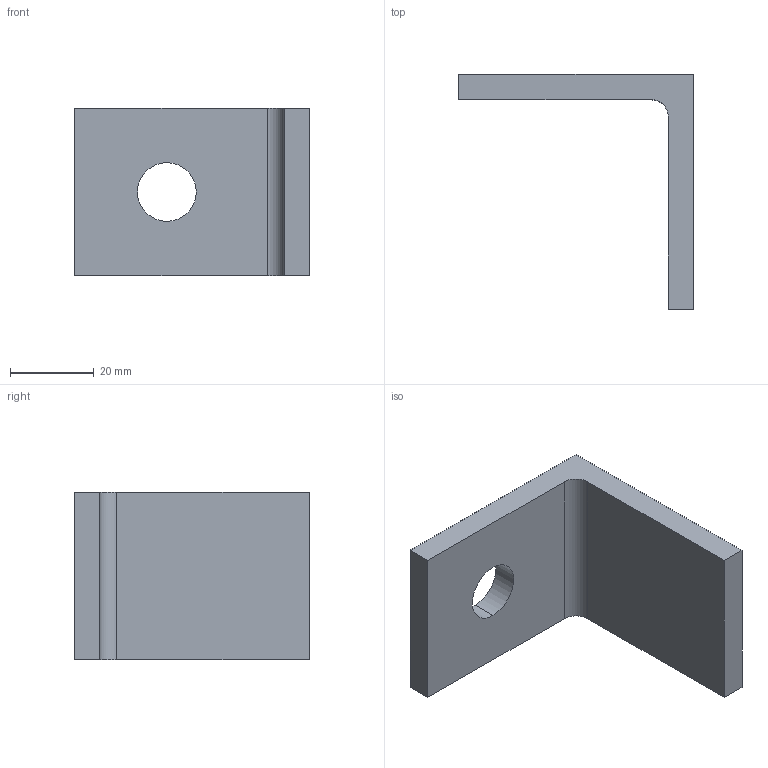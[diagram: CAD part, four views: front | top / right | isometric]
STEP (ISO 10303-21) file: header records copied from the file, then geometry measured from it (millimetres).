
FILE_DESCRIPTION((''),'2;1');
FILE_NAME('SMALLBRACKET_MACHINED2','2014-11-23T',('mphilpott'),(''),'CREO PARAMETRIC BY PTC INC, 2014190','CREO PARAMETRIC BY PTC INC, 2014190','');
FILE_SCHEMA(('CONFIG_CONTROL_DESIGN'));
Length unit declared in the file: millimetre
Products named in the file (1): SMALLBRACKET_MACHINED2
Bounding box: 56 x 56 x 40 mm (x, y, z)
Volume: 24653.7 mm3; surface area: 10126.2 mm2
Topology: 1 solids, 1 shells, 11 faces, 27 edges, 18 vertices
Faces by surface type: plane 8, cylinder 3
Entity records: 369 total; most frequent: CARTESIAN_POINT 56, DIRECTION 55, ORIENTED_EDGE 54, EDGE_CURVE 27, VECTOR 21, LINE 21, VERTEX_POINT 18, AXIS2_PLACEMENT_3D 17
